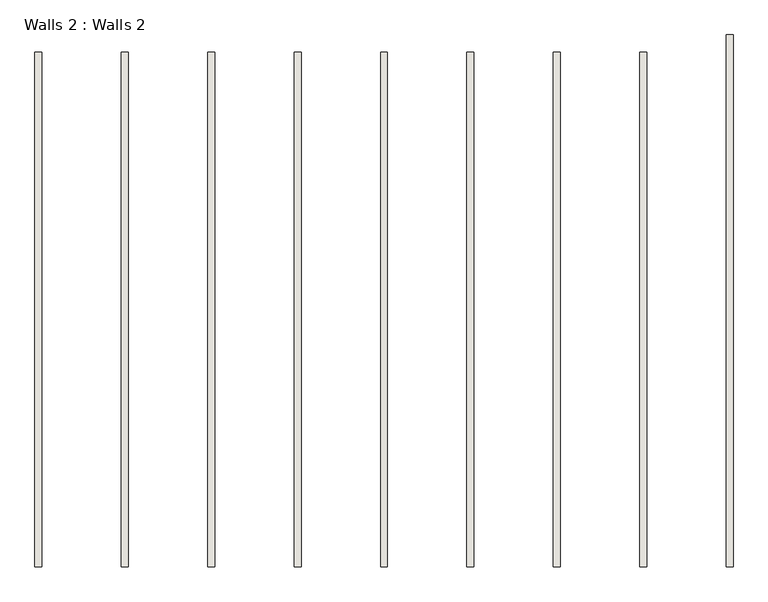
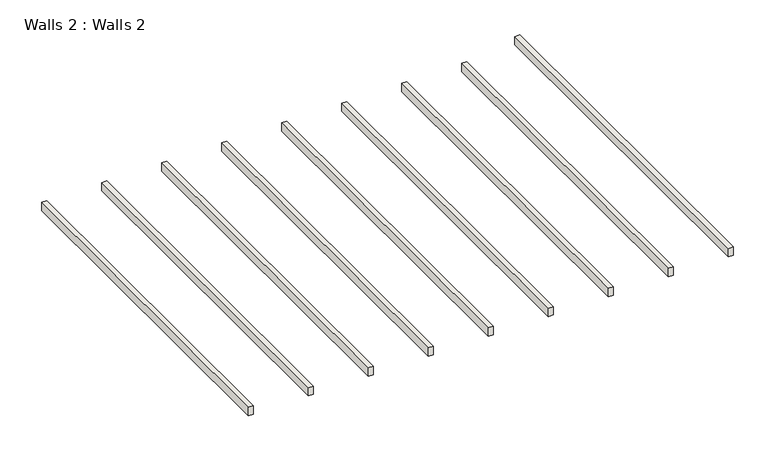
"""IFC4 building model written with IfcOpenShell, lengths in millimetres: wall geometry, Walls 2 : Walls 2."""

from ifc_helpers import new_model, si_unit, frame, origin, place, context, project, spatial, polyline, outline, extrude, source, transform, mapped, element, save


def walls_2_walls_2_07e35d9b(model_context):
    return source(origin(), model_context, "Body", "SweptSolid", [
        extrude(outline(polyline([(157520.8729089, 47475.8005963), (157260.8729089, 47475.8005963), (157260.8729089, 67475.8005963), (157520.8729089, 67475.8005963), (157520.8729089, 47475.8005963)])), frame((0.0, 0.0, 7320.0), z_axis=(0.0, 0.0, 1.0), x_axis=(1.0, 0.0, 0.0)), (0.0, 0.0, 1.0), 480.0),
        extrude(outline(polyline([(131552.8729089, 47475.8005963), (131292.8729089, 47475.8005963), (131292.8729089, 66815.8005963), (131552.8729089, 66815.8005963), (131552.8729089, 47475.8005963)])), frame((0.0, 0.0, 7320.0), z_axis=(0.0, 0.0, 1.0), x_axis=(1.0, 0.0, 0.0)), (0.0, 0.0, 1.0), 480.0),
        extrude(outline(polyline([(134798.8729089, 47475.8005963), (134538.8729089, 47475.8005963), (134538.8729089, 66815.8005963), (134798.8729089, 66815.8005963), (134798.8729089, 47475.8005963)])), frame((0.0, 0.0, 7320.0), z_axis=(0.0, 0.0, 1.0), x_axis=(1.0, 0.0, 0.0)), (0.0, 0.0, 1.0), 480.0),
        extrude(outline(polyline([(138044.8729089, 47475.8005963), (137784.8729089, 47475.8005963), (137784.8729089, 66815.8005963), (138044.8729089, 66815.8005963), (138044.8729089, 47475.8005963)])), frame((0.0, 0.0, 7320.0), z_axis=(0.0, 0.0, 1.0), x_axis=(1.0, 0.0, 0.0)), (0.0, 0.0, 1.0), 480.0),
        extrude(outline(polyline([(141290.8729089, 47475.8005963), (141030.8729089, 47475.8005963), (141030.8729089, 66815.8005963), (141290.8729089, 66815.8005963), (141290.8729089, 47475.8005963)])), frame((0.0, 0.0, 7320.0), z_axis=(0.0, 0.0, 1.0), x_axis=(1.0, 0.0, 0.0)), (0.0, 0.0, 1.0), 480.0),
        extrude(outline(polyline([(144536.8729089, 47475.8005963), (144276.8729089, 47475.8005963), (144276.8729089, 66815.8005963), (144536.8729089, 66815.8005963), (144536.8729089, 47475.8005963)])), frame((0.0, 0.0, 7320.0), z_axis=(0.0, 0.0, 1.0), x_axis=(1.0, 0.0, 0.0)), (0.0, 0.0, 1.0), 480.0),
        extrude(outline(polyline([(147782.8729089, 47475.8005963), (147522.8729089, 47475.8005963), (147522.8729089, 66815.8005963), (147782.8729089, 66815.8005963), (147782.8729089, 47475.8005963)])), frame((0.0, 0.0, 7320.0), z_axis=(0.0, 0.0, 1.0), x_axis=(1.0, 0.0, 0.0)), (0.0, 0.0, 1.0), 480.0),
        extrude(outline(polyline([(151028.8729089, 47475.8005963), (150768.8729089, 47475.8005963), (150768.8729089, 66815.8005963), (151028.8729089, 66815.8005963), (151028.8729089, 47475.8005963)])), frame((0.0, 0.0, 7320.0), z_axis=(0.0, 0.0, 1.0), x_axis=(1.0, 0.0, 0.0)), (0.0, 0.0, 1.0), 480.0),
        extrude(outline(polyline([(154274.8729089, 47475.8005963), (154014.8729089, 47475.8005963), (154014.8729089, 66815.8005963), (154274.8729089, 66815.8005963), (154274.8729089, 47475.8005963)])), frame((0.0, 0.0, 7320.0), z_axis=(0.0, 0.0, 1.0), x_axis=(1.0, 0.0, 0.0)), (0.0, 0.0, 1.0), 480.0),
    ])


if __name__ == "__main__":
    model = new_model("IFC4")
    model_context = context("Model", 3, world=origin())
    ifc_project = project(units=[si_unit("LENGTHUNIT", "METRE", prefix="MILLI")], contexts=[model_context])
    site = spatial("IfcSite", under=ifc_project)
    building = spatial("IfcBuilding", under=site)
    placement = place(None, origin())
    walls_2_walls_2_shape = walls_2_walls_2_07e35d9b(model_context)
    element("IfcWall", 1, ObjectType="Walls 2 : Walls 2", at=placement, inside=building, context=model_context, shape_type="MappedRepresentation", body=[
        mapped(walls_2_walls_2_shape, transform((0.0, 0.0, 0.0), x_axis=(1.0, 0.0, 0.0), y_axis=(0.0, 1.0, 0.0), z_axis=(0.0, 0.0, 1.0))),
    ])
    save(model, "model.ifc")
